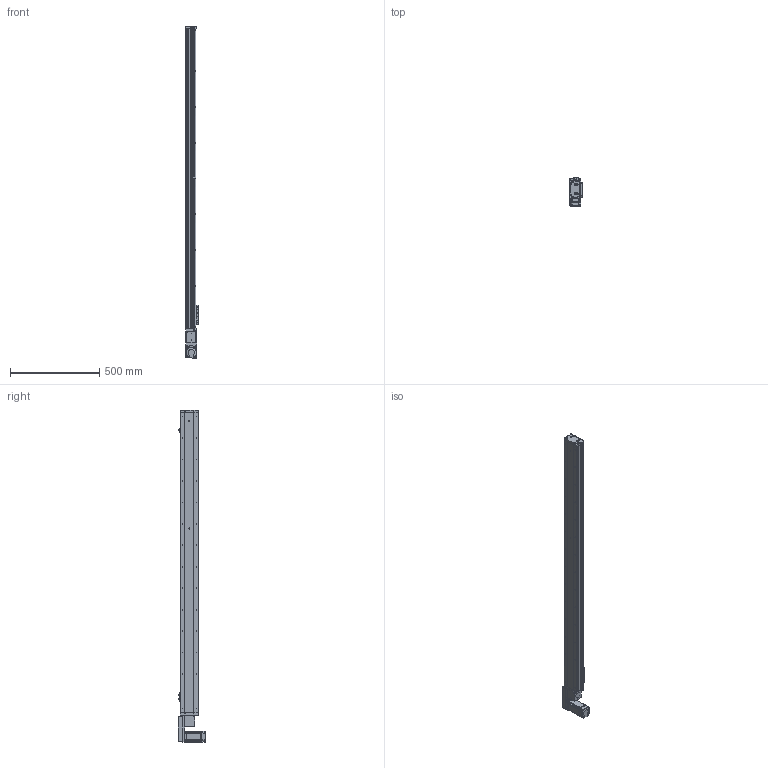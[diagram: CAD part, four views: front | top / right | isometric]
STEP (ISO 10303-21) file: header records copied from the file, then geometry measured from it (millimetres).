
FILE_DESCRIPTION (( 'STEP AP214' ), '1' );
FILE_NAME ('KSD100B-S1500-MLB-CR.STEP', '2019-09-06T08:52:15', ( '微软用户' ), ( '微软中国' ), 'SwSTEP 2.0', 'SolidWorks 2014', '' );
FILE_SCHEMA (( 'AUTOMOTIVE_DESIGN' ));
Length unit declared in the file: millimetre
Products named in the file (14): 100宽滚珠螺姆安装板1防护罩; 100宽滚珠螺姆安装板1; 100遵裔啣揤啣; 100遵裔啣1500俴最; 100宽侧板1500行程同步带; 100宽底板全封闭1500行程同步带; KSD100B-S1500-MLB-CR; MHMD042G1CA_2_03; 悵誘欶奻狟殏; 100宽马达安装板连板上下折丝杆同步带; U倰嫖萇EEㄜSX672; 100宽马达安装板同步带左; 100遵鎮湛假蚾啣蜊; 100宽端板同步带全封闭
Assembly tree (17 placements, depth 2):
  KSD100B-S1500-MLB-CR
    100宽底板全封闭1500行程同步带
    100宽侧板1500行程同步带  x2
    100遵裔啣1500俴最
    100遵裔啣揤啣  x2
    100宽滚珠螺姆安装板1
    100宽滚珠螺姆安装板1防护罩
    100宽端板同步带全封闭
    100遵鎮湛假蚾啣蜊
    100宽马达安装板同步带左
    U倰嫖萇EEㄜSX672  x3
    100宽马达安装板连板上下折丝杆同步带
    悵誘欶奻狟殏
    MHMD042G1CA_2_03
Bounding box: 70 x 156.2 x 1857 mm (x, y, z)
Volume: 3393868.6 mm3; surface area: 1483371.3 mm2
Topology: 16 solids, 17 shells, 1939 faces, 5428 edges, 3433 vertices
Faces by surface type: cylinder 889, plane 727, cone 303, bspline 20
Entity records: 68940 total; most frequent: CARTESIAN_POINT 10687, DIRECTION 9420, ORIENTED_EDGE 8644, EDGE_CURVE 4394, AXIS2_PLACEMENT_3D 3448, VERTEX_POINT 2911, VECTOR 2524, LINE 2524
